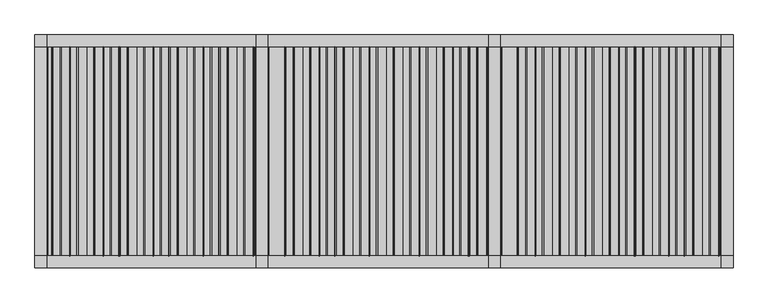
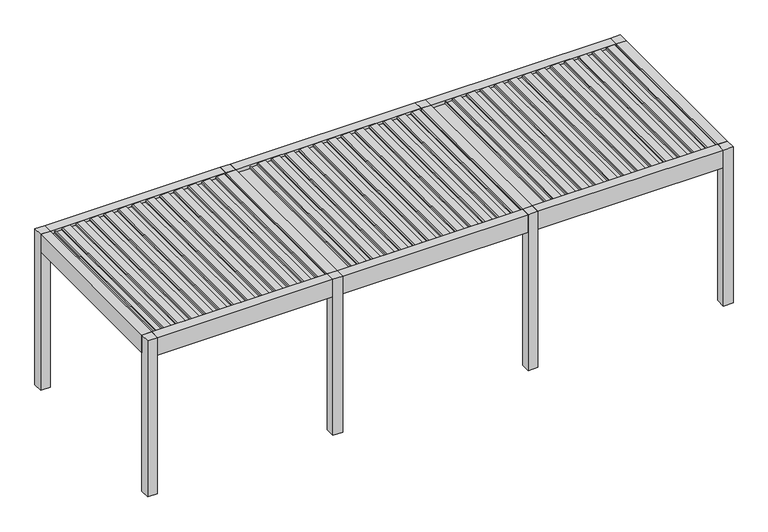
"""IFC4 building model written with IfcOpenShell, lengths in millimetres: proxy geometry, Renson_Amani_Patio_Cover : Renson_Amani_Patio_Cover."""

from ifc_helpers import new_model, si_unit, point, frame, frame_2d, origin, origin_with_axes, place, context, project, spatial, polyline, circle_curve, trimmed, segment, composite_curve, outline, extrude, source, transform, mapped, element, save


def generic_models_78fd4a68(model_context):
    return source(origin(), model_context, "Body", "SweptSolid", [
        extrude(outline(composite_curve([segment(polyline([(2483.35, 7073.7289238), (2511.01198, 7076.1490335), (2512.3970364, 7104.984284), (2531.8911096, 7101.5469529), (2526.6075693, 6991.549838)]), True, "CONTINUOUS"), segment(trimmed(circle_curve(frame_2d((2511.6248435, 6992.26951)), 15.0), [point((2526.6075693, 6991.549838))], [point((2514.2295662, 6977.4973937))], False, "CARTESIAN"), True, "CONTINUOUS"), segment(polyline([(2514.2295662, 6977.4973937), (2495.0, 6974.1067023), (2495.0, 6886.3709263), (2512.0788237, 6883.3594689), (2511.3450182, 6868.0824984), (2483.35, 6865.6332517), (2483.35, 7073.7289238)]), True, "CONTINUOUS")], self_intersect=False)), frame((0.0, -1350.0, 0.0), z_axis=(0.0, 1.0, 0.0), x_axis=(0.0, 0.0, 1.0)), (0.0, 0.0, 1.0), 2700.0),
        extrude(outline(composite_curve([segment(polyline([(2483.35, 6858.7132078), (2511.01198, 6861.1333174), (2512.3970364, 6889.9685679), (2531.8911096, 6886.5312368), (2526.6075693, 6776.534122)]), True, "CONTINUOUS"), segment(trimmed(circle_curve(frame_2d((2511.6248435, 6777.2537939)), 15.0), [point((2526.6075693, 6776.534122))], [point((2514.2295662, 6762.4816776))], False, "CARTESIAN"), True, "CONTINUOUS"), segment(polyline([(2514.2295662, 6762.4816776), (2495.0, 6759.0909863), (2495.0, 6671.3552102), (2512.0788237, 6668.3437528), (2511.3450182, 6653.0667824), (2483.35, 6650.6175356), (2483.35, 6858.7132078)]), True, "CONTINUOUS")], self_intersect=False)), frame((0.0, -1350.0, 0.0), z_axis=(0.0, 1.0, 0.0), x_axis=(0.0, 0.0, 1.0)), (0.0, 0.0, 1.0), 2700.0),
        extrude(outline(composite_curve([segment(polyline([(2483.35, 6643.6974917), (2511.01198, 6646.1176014), (2512.3970364, 6674.9528519), (2531.8911096, 6671.5155208), (2526.6075693, 6561.5184059)]), True, "CONTINUOUS"), segment(trimmed(circle_curve(frame_2d((2511.6248435, 6562.2380779)), 15.0), [point((2526.6075693, 6561.5184059))], [point((2514.2295662, 6547.4659616))], False, "CARTESIAN"), True, "CONTINUOUS"), segment(polyline([(2514.2295662, 6547.4659616), (2495.0, 6544.0752702), (2495.0, 6456.3394942), (2512.0788237, 6453.3280368), (2511.3450182, 6438.0510663), (2483.35, 6435.6018196), (2483.35, 6643.6974917)]), True, "CONTINUOUS")], self_intersect=False)), frame((0.0, -1350.0, 0.0), z_axis=(0.0, 1.0, 0.0), x_axis=(0.0, 0.0, 1.0)), (0.0, 0.0, 1.0), 2700.0),
        extrude(outline(composite_curve([segment(polyline([(2483.35, 6428.6817757), (2511.01198, 6431.1018854), (2512.3970364, 6459.9371358), (2531.8911096, 6456.4998047), (2526.6075693, 6346.5026899)]), True, "CONTINUOUS"), segment(trimmed(circle_curve(frame_2d((2511.6248435, 6347.2223618)), 15.0), [point((2526.6075693, 6346.5026899))], [point((2514.2295662, 6332.4502455))], False, "CARTESIAN"), True, "CONTINUOUS"), segment(polyline([(2514.2295662, 6332.4502455), (2495.0, 6329.0595542), (2495.0, 6241.3237782), (2512.0788237, 6238.3123207), (2511.3450182, 6223.0353503), (2483.35, 6220.5861035), (2483.35, 6428.6817757)]), True, "CONTINUOUS")], self_intersect=False)), frame((0.0, -1350.0, 0.0), z_axis=(0.0, 1.0, 0.0), x_axis=(0.0, 0.0, 1.0)), (0.0, 0.0, 1.0), 2700.0),
        extrude(outline(composite_curve([segment(polyline([(2483.35, 6213.6660597), (2511.01198, 6216.0861693), (2512.3970364, 6244.9214198), (2531.8911096, 6241.4840887), (2526.6075693, 6131.4869738)]), True, "CONTINUOUS"), segment(trimmed(circle_curve(frame_2d((2511.6248435, 6132.2066458)), 15.0), [point((2526.6075693, 6131.4869738))], [point((2514.2295662, 6117.4345295))], False, "CARTESIAN"), True, "CONTINUOUS"), segment(polyline([(2514.2295662, 6117.4345295), (2495.0, 6114.0438381), (2495.0, 6026.3080621), (2512.0788237, 6023.2966047), (2511.3450182, 6008.0196342), (2483.35, 6005.5703875), (2483.35, 6213.6660597)]), True, "CONTINUOUS")], self_intersect=False)), frame((0.0, -1350.0, 0.0), z_axis=(0.0, 1.0, 0.0), x_axis=(0.0, 0.0, 1.0)), (0.0, 0.0, 1.0), 2700.0),
        extrude(outline(composite_curve([segment(polyline([(2483.35, 5998.6503436), (2511.01198, 6001.0704533), (2512.3970364, 6029.9057037), (2531.8911096, 6026.4683726), (2526.6075693, 5916.4712578)]), True, "CONTINUOUS"), segment(trimmed(circle_curve(frame_2d((2511.6248435, 5917.1909297)), 15.0), [point((2526.6075693, 5916.4712578))], [point((2514.2295662, 5902.4188134))], False, "CARTESIAN"), True, "CONTINUOUS"), segment(polyline([(2514.2295662, 5902.4188134), (2495.0, 5899.0281221), (2495.0, 5811.2923461), (2512.0788237, 5808.2808886), (2511.3450182, 5793.0039182), (2483.35, 5790.5546714), (2483.35, 5998.6503436)]), True, "CONTINUOUS")], self_intersect=False)), frame((0.0, -1350.0, 0.0), z_axis=(0.0, 1.0, 0.0), x_axis=(0.0, 0.0, 1.0)), (0.0, 0.0, 1.0), 2700.0),
        extrude(outline(composite_curve([segment(polyline([(2483.35, 5783.6346276), (2511.01198, 5786.0547372), (2512.3970364, 5814.8899877), (2531.8911096, 5811.4526566), (2526.6075693, 5701.4555418)]), True, "CONTINUOUS"), segment(trimmed(circle_curve(frame_2d((2511.6248435, 5702.1752137)), 15.0), [point((2526.6075693, 5701.4555418))], [point((2514.2295662, 5687.4030974))], False, "CARTESIAN"), True, "CONTINUOUS"), segment(polyline([(2514.2295662, 5687.4030974), (2495.0, 5684.012406), (2495.0, 5596.27663), (2512.0788237, 5593.2651726), (2511.3450182, 5577.9882021), (2483.35, 5575.5389554), (2483.35, 5783.6346276)]), True, "CONTINUOUS")], self_intersect=False)), frame((0.0, -1350.0, 0.0), z_axis=(0.0, 1.0, 0.0), x_axis=(0.0, 0.0, 1.0)), (0.0, 0.0, 1.0), 2700.0),
        extrude(outline(composite_curve([segment(polyline([(2483.35, 5568.6189115), (2511.01198, 5571.0390212), (2512.3970364, 5599.8742716), (2531.8911096, 5596.4369406), (2526.6075693, 5486.4398257)]), True, "CONTINUOUS"), segment(trimmed(circle_curve(frame_2d((2511.6248435, 5487.1594976)), 15.0), [point((2526.6075693, 5486.4398257))], [point((2514.2295662, 5472.3873813))], False, "CARTESIAN"), True, "CONTINUOUS"), segment(polyline([(2514.2295662, 5472.3873813), (2495.0, 5468.99669), (2495.0, 5381.260914), (2512.0788237, 5378.2494566), (2511.3450182, 5362.9724861), (2483.35, 5360.5232394), (2483.35, 5568.6189115)]), True, "CONTINUOUS")], self_intersect=False)), frame((0.0, -1350.0, 0.0), z_axis=(0.0, 1.0, 0.0), x_axis=(0.0, 0.0, 1.0)), (0.0, 0.0, 1.0), 2700.0),
        extrude(outline(composite_curve([segment(polyline([(2483.35, 5353.6031955), (2511.01198, 5356.0233051), (2512.3970364, 5384.8585556), (2531.8911096, 5381.4212245), (2526.6075693, 5271.4241097)]), True, "CONTINUOUS"), segment(trimmed(circle_curve(frame_2d((2511.6248435, 5272.1437816)), 15.0), [point((2526.6075693, 5271.4241097))], [point((2514.2295662, 5257.3716653))], False, "CARTESIAN"), True, "CONTINUOUS"), segment(polyline([(2514.2295662, 5257.3716653), (2495.0, 5253.980974), (2495.0, 5166.2451979), (2512.0788237, 5163.2337405), (2511.3450182, 5147.95677), (2483.35, 5145.5075233), (2483.35, 5353.6031955)]), True, "CONTINUOUS")], self_intersect=False)), frame((0.0, -1350.0, 0.0), z_axis=(0.0, 1.0, 0.0), x_axis=(0.0, 0.0, 1.0)), (0.0, 0.0, 1.0), 2700.0),
        extrude(outline(composite_curve([segment(polyline([(2483.35, 5138.5874794), (2511.01198, 5141.0075891), (2512.3970364, 5169.8428395), (2531.8911096, 5166.4055085), (2526.6075693, 5056.4083936)]), True, "CONTINUOUS"), segment(trimmed(circle_curve(frame_2d((2511.6248435, 5057.1280655)), 15.0), [point((2526.6075693, 5056.4083936))], [point((2514.2295662, 5042.3559492))], False, "CARTESIAN"), True, "CONTINUOUS"), segment(polyline([(2514.2295662, 5042.3559492), (2495.0, 5038.9652579), (2495.0, 4951.2294819), (2512.0788237, 4948.2180245), (2511.3450182, 4932.941054), (2483.35, 4930.4918073), (2483.35, 5138.5874794)]), True, "CONTINUOUS")], self_intersect=False)), frame((0.0, -1350.0, 0.0), z_axis=(0.0, 1.0, 0.0), x_axis=(0.0, 0.0, 1.0)), (0.0, 0.0, 1.0), 2700.0),
        extrude(outline(composite_curve([segment(polyline([(2483.35, 7288.7446399), (2511.01198, 7291.1647495), (2512.3970364, 7320.0), (2531.8911096, 7316.5626689), (2526.6075693, 7206.5655541)]), True, "CONTINUOUS"), segment(trimmed(circle_curve(frame_2d((2511.6248435, 7207.285226)), 15.0), [point((2526.6075693, 7206.5655541))], [point((2514.2295662, 7192.5131097))], False, "CARTESIAN"), True, "CONTINUOUS"), segment(polyline([(2514.2295662, 7192.5131097), (2495.0, 7189.1224184), (2495.0, 7101.3866423), (2512.0788237, 7098.3751849), (2511.3450182, 7083.0982144), (2483.35, 7080.6489677), (2483.35, 7288.7446399)]), True, "CONTINUOUS")], self_intersect=False)), frame((0.0, -1350.0, 0.0), z_axis=(0.0, 1.0, 0.0), x_axis=(0.0, 0.0, 1.0)), (0.0, 0.0, 1.0), 2700.0),
        extrude(outline(composite_curve([segment(polyline([(2483.35, 4923.5717634), (2511.01198, 4925.991873), (2512.3970364, 4954.8271235), (2531.8911096, 4951.3897924), (2526.6075693, 4841.3926776)]), True, "CONTINUOUS"), segment(trimmed(circle_curve(frame_2d((2511.6248435, 4842.1123495)), 15.0), [point((2526.6075693, 4841.3926776))], [point((2514.2295662, 4827.3402332))], False, "CARTESIAN"), True, "CONTINUOUS"), segment(polyline([(2514.2295662, 4827.3402332), (2495.0, 4823.9495419), (2495.0, 4736.2137658), (2512.0788237, 4733.2023084), (2511.3450182, 4717.9253379), (2483.35, 4715.4760912), (2483.35, 4923.5717634)]), True, "CONTINUOUS")], self_intersect=False)), frame((0.0, -1350.0, 0.0), z_axis=(0.0, 1.0, 0.0), x_axis=(0.0, 0.0, 1.0)), (0.0, 0.0, 1.0), 2700.0),
        extrude(outline(composite_curve([segment(polyline([(2483.35, 4073.7289238), (2511.01198, 4076.1490335), (2512.3970364, 4104.984284), (2531.8911096, 4101.5469529), (2526.6075693, 3991.549838)]), True, "CONTINUOUS"), segment(trimmed(circle_curve(frame_2d((2511.6248435, 3992.26951)), 15.0), [point((2526.6075693, 3991.549838))], [point((2514.2295662, 3977.4973937))], False, "CARTESIAN"), True, "CONTINUOUS"), segment(polyline([(2514.2295662, 3977.4973937), (2495.0, 3974.1067023), (2495.0, 3886.3709263), (2512.0788237, 3883.3594689), (2511.3450182, 3868.0824984), (2483.35, 3865.6332517), (2483.35, 4073.7289238)]), True, "CONTINUOUS")], self_intersect=False)), frame((0.0, -1350.0, 0.0), z_axis=(0.0, 1.0, 0.0), x_axis=(0.0, 0.0, 1.0)), (0.0, 0.0, 1.0), 2700.0),
        extrude(outline(composite_curve([segment(polyline([(2483.35, 3858.7132078), (2511.01198, 3861.1333174), (2512.3970364, 3889.9685679), (2531.8911096, 3886.5312368), (2526.6075693, 3776.534122)]), True, "CONTINUOUS"), segment(trimmed(circle_curve(frame_2d((2511.6248435, 3777.2537939)), 15.0), [point((2526.6075693, 3776.534122))], [point((2514.2295662, 3762.4816776))], False, "CARTESIAN"), True, "CONTINUOUS"), segment(polyline([(2514.2295662, 3762.4816776), (2495.0, 3759.0909863), (2495.0, 3671.3552102), (2512.0788237, 3668.3437528), (2511.3450182, 3653.0667824), (2483.35, 3650.6175356), (2483.35, 3858.7132078)]), True, "CONTINUOUS")], self_intersect=False)), frame((0.0, -1350.0, 0.0), z_axis=(0.0, 1.0, 0.0), x_axis=(0.0, 0.0, 1.0)), (0.0, 0.0, 1.0), 2700.0),
        extrude(outline(composite_curve([segment(polyline([(2483.35, 3643.6974917), (2511.01198, 3646.1176014), (2512.3970364, 3674.9528519), (2531.8911096, 3671.5155208), (2526.6075693, 3561.5184059)]), True, "CONTINUOUS"), segment(trimmed(circle_curve(frame_2d((2511.6248435, 3562.2380779)), 15.0), [point((2526.6075693, 3561.5184059))], [point((2514.2295662, 3547.4659616))], False, "CARTESIAN"), True, "CONTINUOUS"), segment(polyline([(2514.2295662, 3547.4659616), (2495.0, 3544.0752702), (2495.0, 3456.3394942), (2512.0788237, 3453.3280368), (2511.3450182, 3438.0510663), (2483.35, 3435.6018196), (2483.35, 3643.6974917)]), True, "CONTINUOUS")], self_intersect=False)), frame((0.0, -1350.0, 0.0), z_axis=(0.0, 1.0, 0.0), x_axis=(0.0, 0.0, 1.0)), (0.0, 0.0, 1.0), 2700.0),
        extrude(outline(composite_curve([segment(polyline([(2483.35, 3428.6817757), (2511.01198, 3431.1018854), (2512.3970364, 3459.9371358), (2531.8911096, 3456.4998047), (2526.6075693, 3346.5026899)]), True, "CONTINUOUS"), segment(trimmed(circle_curve(frame_2d((2511.6248435, 3347.2223618)), 15.0), [point((2526.6075693, 3346.5026899))], [point((2514.2295662, 3332.4502455))], False, "CARTESIAN"), True, "CONTINUOUS"), segment(polyline([(2514.2295662, 3332.4502455), (2495.0, 3329.0595542), (2495.0, 3241.3237782), (2512.0788237, 3238.3123207), (2511.3450182, 3223.0353503), (2483.35, 3220.5861035), (2483.35, 3428.6817757)]), True, "CONTINUOUS")], self_intersect=False)), frame((0.0, -1350.0, 0.0), z_axis=(0.0, 1.0, 0.0), x_axis=(0.0, 0.0, 1.0)), (0.0, 0.0, 1.0), 2700.0),
        extrude(outline(composite_curve([segment(polyline([(2483.35, 3213.6660597), (2511.01198, 3216.0861693), (2512.3970364, 3244.9214198), (2531.8911096, 3241.4840887), (2526.6075693, 3131.4869738)]), True, "CONTINUOUS"), segment(trimmed(circle_curve(frame_2d((2511.6248435, 3132.2066458)), 15.0), [point((2526.6075693, 3131.4869738))], [point((2514.2295662, 3117.4345295))], False, "CARTESIAN"), True, "CONTINUOUS"), segment(polyline([(2514.2295662, 3117.4345295), (2495.0, 3114.0438381), (2495.0, 3026.3080621), (2512.0788237, 3023.2966047), (2511.3450182, 3008.0196342), (2483.35, 3005.5703875), (2483.35, 3213.6660597)]), True, "CONTINUOUS")], self_intersect=False)), frame((0.0, -1350.0, 0.0), z_axis=(0.0, 1.0, 0.0), x_axis=(0.0, 0.0, 1.0)), (0.0, 0.0, 1.0), 2700.0),
        extrude(outline(composite_curve([segment(polyline([(2483.35, 2998.6503436), (2511.01198, 3001.0704533), (2512.3970364, 3029.9057037), (2531.8911096, 3026.4683726), (2526.6075693, 2916.4712578)]), True, "CONTINUOUS"), segment(trimmed(circle_curve(frame_2d((2511.6248435, 2917.1909297)), 15.0), [point((2526.6075693, 2916.4712578))], [point((2514.2295662, 2902.4188134))], False, "CARTESIAN"), True, "CONTINUOUS"), segment(polyline([(2514.2295662, 2902.4188134), (2495.0, 2899.0281221), (2495.0, 2811.2923461), (2512.0788237, 2808.2808886), (2511.3450182, 2793.0039182), (2483.35, 2790.5546714), (2483.35, 2998.6503436)]), True, "CONTINUOUS")], self_intersect=False)), frame((0.0, -1350.0, 0.0), z_axis=(0.0, 1.0, 0.0), x_axis=(0.0, 0.0, 1.0)), (0.0, 0.0, 1.0), 2700.0),
        extrude(outline(composite_curve([segment(polyline([(2483.35, 2783.6346276), (2511.01198, 2786.0547372), (2512.3970364, 2814.8899877), (2531.8911096, 2811.4526566), (2526.6075693, 2701.4555418)]), True, "CONTINUOUS"), segment(trimmed(circle_curve(frame_2d((2511.6248435, 2702.1752137)), 15.0), [point((2526.6075693, 2701.4555418))], [point((2514.2295662, 2687.4030974))], False, "CARTESIAN"), True, "CONTINUOUS"), segment(polyline([(2514.2295662, 2687.4030974), (2495.0, 2684.012406), (2495.0, 2596.27663), (2512.0788237, 2593.2651726), (2511.3450182, 2577.9882021), (2483.35, 2575.5389554), (2483.35, 2783.6346276)]), True, "CONTINUOUS")], self_intersect=False)), frame((0.0, -1350.0, 0.0), z_axis=(0.0, 1.0, 0.0), x_axis=(0.0, 0.0, 1.0)), (0.0, 0.0, 1.0), 2700.0),
        extrude(outline(composite_curve([segment(polyline([(2483.35, 2568.6189115), (2511.01198, 2571.0390212), (2512.3970364, 2599.8742716), (2531.8911096, 2596.4369406), (2526.6075693, 2486.4398257)]), True, "CONTINUOUS"), segment(trimmed(circle_curve(frame_2d((2511.6248435, 2487.1594976)), 15.0), [point((2526.6075693, 2486.4398257))], [point((2514.2295662, 2472.3873813))], False, "CARTESIAN"), True, "CONTINUOUS"), segment(polyline([(2514.2295662, 2472.3873813), (2495.0, 2468.99669), (2495.0, 2381.260914), (2512.0788237, 2378.2494566), (2511.3450182, 2362.9724861), (2483.35, 2360.5232394), (2483.35, 2568.6189115)]), True, "CONTINUOUS")], self_intersect=False)), frame((0.0, -1350.0, 0.0), z_axis=(0.0, 1.0, 0.0), x_axis=(0.0, 0.0, 1.0)), (0.0, 0.0, 1.0), 2700.0),
        extrude(outline(composite_curve([segment(polyline([(2483.35, 2353.6031955), (2511.01198, 2356.0233051), (2512.3970364, 2384.8585556), (2531.8911096, 2381.4212245), (2526.6075693, 2271.4241097)]), True, "CONTINUOUS"), segment(trimmed(circle_curve(frame_2d((2511.6248435, 2272.1437816)), 15.0), [point((2526.6075693, 2271.4241097))], [point((2514.2295662, 2257.3716653))], False, "CARTESIAN"), True, "CONTINUOUS"), segment(polyline([(2514.2295662, 2257.3716653), (2495.0, 2253.980974), (2495.0, 2166.2451979), (2512.0788237, 2163.2337405), (2511.3450182, 2147.95677), (2483.35, 2145.5075233), (2483.35, 2353.6031955)]), True, "CONTINUOUS")], self_intersect=False)), frame((0.0, -1350.0, 0.0), z_axis=(0.0, 1.0, 0.0), x_axis=(0.0, 0.0, 1.0)), (0.0, 0.0, 1.0), 2700.0),
        extrude(outline(composite_curve([segment(polyline([(2483.35, 2138.5874794), (2511.01198, 2141.0075891), (2512.3970364, 2169.8428395), (2531.8911096, 2166.4055085), (2526.6075693, 2056.4083936)]), True, "CONTINUOUS"), segment(trimmed(circle_curve(frame_2d((2511.6248435, 2057.1280655)), 15.0), [point((2526.6075693, 2056.4083936))], [point((2514.2295662, 2042.3559492))], False, "CARTESIAN"), True, "CONTINUOUS"), segment(polyline([(2514.2295662, 2042.3559492), (2495.0, 2038.9652579), (2495.0, 1951.2294819), (2512.0788237, 1948.2180245), (2511.3450182, 1932.941054), (2483.35, 1930.4918073), (2483.35, 2138.5874794)]), True, "CONTINUOUS")], self_intersect=False)), frame((0.0, -1350.0, 0.0), z_axis=(0.0, 1.0, 0.0), x_axis=(0.0, 0.0, 1.0)), (0.0, 0.0, 1.0), 2700.0),
        extrude(outline(composite_curve([segment(polyline([(2483.35, 4288.7446399), (2511.01198, 4291.1647495), (2512.3970364, 4320.0), (2531.8911096, 4316.5626689), (2526.6075693, 4206.5655541)]), True, "CONTINUOUS"), segment(trimmed(circle_curve(frame_2d((2511.6248435, 4207.285226)), 15.0), [point((2526.6075693, 4206.5655541))], [point((2514.2295662, 4192.5131097))], False, "CARTESIAN"), True, "CONTINUOUS"), segment(polyline([(2514.2295662, 4192.5131097), (2495.0, 4189.1224184), (2495.0, 4101.3866423), (2512.0788237, 4098.3751849), (2511.3450182, 4083.0982144), (2483.35, 4080.6489677), (2483.35, 4288.7446399)]), True, "CONTINUOUS")], self_intersect=False)), frame((0.0, -1350.0, 0.0), z_axis=(0.0, 1.0, 0.0), x_axis=(0.0, 0.0, 1.0)), (0.0, 0.0, 1.0), 2700.0),
        extrude(outline(composite_curve([segment(polyline([(2483.35, 1923.5717634), (2511.01198, 1925.991873), (2512.3970364, 1954.8271235), (2531.8911096, 1951.3897924), (2526.6075693, 1841.3926776)]), True, "CONTINUOUS"), segment(trimmed(circle_curve(frame_2d((2511.6248435, 1842.1123495)), 15.0), [point((2526.6075693, 1841.3926776))], [point((2514.2295662, 1827.3402332))], False, "CARTESIAN"), True, "CONTINUOUS"), segment(polyline([(2514.2295662, 1827.3402332), (2495.0, 1823.9495419), (2495.0, 1736.2137658), (2512.0788237, 1733.2023084), (2511.3450182, 1717.9253379), (2483.35, 1715.4760912), (2483.35, 1923.5717634)]), True, "CONTINUOUS")], self_intersect=False)), frame((0.0, -1350.0, 0.0), z_axis=(0.0, 1.0, 0.0), x_axis=(0.0, 0.0, 1.0)), (0.0, 0.0, 1.0), 2700.0),
        extrude(outline(composite_curve([segment(polyline([(2483.35, 1073.7289238), (2511.01198, 1076.1490335), (2512.3970364, 1104.984284), (2531.8911096, 1101.5469529), (2526.6075693, 991.549838)]), True, "CONTINUOUS"), segment(trimmed(circle_curve(frame_2d((2511.6248435, 992.26951)), 15.0), [point((2526.6075693, 991.549838))], [point((2514.2295662, 977.4973937))], False, "CARTESIAN"), True, "CONTINUOUS"), segment(polyline([(2514.2295662, 977.4973937), (2495.0, 974.1067023), (2495.0, 886.3709263), (2512.0788237, 883.3594689), (2511.3450182, 868.0824984), (2483.35, 865.6332517), (2483.35, 1073.7289238)]), True, "CONTINUOUS")], self_intersect=False)), frame((0.0, -1350.0, 0.0), z_axis=(0.0, 1.0, 0.0), x_axis=(0.0, 0.0, 1.0)), (0.0, 0.0, 1.0), 2700.0),
        extrude(outline(composite_curve([segment(polyline([(2483.35, 858.7132078), (2511.01198, 861.1333174), (2512.3970364, 889.9685679), (2531.8911096, 886.5312368), (2526.6075693, 776.534122)]), True, "CONTINUOUS"), segment(trimmed(circle_curve(frame_2d((2511.6248435, 777.2537939)), 15.0), [point((2526.6075693, 776.534122))], [point((2514.2295662, 762.4816776))], False, "CARTESIAN"), True, "CONTINUOUS"), segment(polyline([(2514.2295662, 762.4816776), (2495.0, 759.0909863), (2495.0, 671.3552102), (2512.0788237, 668.3437528), (2511.3450182, 653.0667824), (2483.35, 650.6175356), (2483.35, 858.7132078)]), True, "CONTINUOUS")], self_intersect=False)), frame((0.0, -1350.0, 0.0), z_axis=(0.0, 1.0, 0.0), x_axis=(0.0, 0.0, 1.0)), (0.0, 0.0, 1.0), 2700.0),
        extrude(outline(composite_curve([segment(polyline([(2483.35, 643.6974917), (2511.01198, 646.1176014), (2512.3970364, 674.9528519), (2531.8911096, 671.5155208), (2526.6075693, 561.5184059)]), True, "CONTINUOUS"), segment(trimmed(circle_curve(frame_2d((2511.6248435, 562.2380779)), 15.0), [point((2526.6075693, 561.5184059))], [point((2514.2295662, 547.4659616))], False, "CARTESIAN"), True, "CONTINUOUS"), segment(polyline([(2514.2295662, 547.4659616), (2495.0, 544.0752702), (2495.0, 456.3394942), (2512.0788237, 453.3280368), (2511.3450182, 438.0510663), (2483.35, 435.6018196), (2483.35, 643.6974917)]), True, "CONTINUOUS")], self_intersect=False)), frame((0.0, -1350.0, 0.0), z_axis=(0.0, 1.0, 0.0), x_axis=(0.0, 0.0, 1.0)), (0.0, 0.0, 1.0), 2700.0),
        extrude(outline(composite_curve([segment(polyline([(2483.35, 428.6817757), (2511.01198, 431.1018854), (2512.3970364, 459.9371358), (2531.8911096, 456.4998047), (2526.6075693, 346.5026899)]), True, "CONTINUOUS"), segment(trimmed(circle_curve(frame_2d((2511.6248435, 347.2223618)), 15.0), [point((2526.6075693, 346.5026899))], [point((2514.2295662, 332.4502455))], False, "CARTESIAN"), True, "CONTINUOUS"), segment(polyline([(2514.2295662, 332.4502455), (2495.0, 329.0595542), (2495.0, 241.3237782), (2512.0788237, 238.3123207), (2511.3450182, 223.0353503), (2483.35, 220.5861035), (2483.35, 428.6817757)]), True, "CONTINUOUS")], self_intersect=False)), frame((0.0, -1350.0, 0.0), z_axis=(0.0, 1.0, 0.0), x_axis=(0.0, 0.0, 1.0)), (0.0, 0.0, 1.0), 2700.0),
        extrude(outline(composite_curve([segment(polyline([(2483.35, 213.6660597), (2511.01198, 216.0861693), (2512.3970364, 244.9214198), (2531.8911096, 241.4840887), (2526.6075693, 131.4869738)]), True, "CONTINUOUS"), segment(trimmed(circle_curve(frame_2d((2511.6248435, 132.2066458)), 15.0), [point((2526.6075693, 131.4869738))], [point((2514.2295662, 117.4345295))], False, "CARTESIAN"), True, "CONTINUOUS"), segment(polyline([(2514.2295662, 117.4345295), (2495.0, 114.0438381), (2495.0, 26.3080621), (2512.0788237, 23.2966047), (2511.3450182, 8.0196342), (2483.35, 5.5703875), (2483.35, 213.6660597)]), True, "CONTINUOUS")], self_intersect=False)), frame((0.0, -1350.0, 0.0), z_axis=(0.0, 1.0, 0.0), x_axis=(0.0, 0.0, 1.0)), (0.0, 0.0, 1.0), 2700.0),
        extrude(outline(composite_curve([segment(polyline([(2483.35, -1.3496564), (2511.01198, 1.0704533), (2512.3970364, 29.9057037), (2531.8911096, 26.4683726), (2526.6075693, -83.5287422)]), True, "CONTINUOUS"), segment(trimmed(circle_curve(frame_2d((2511.6248435, -82.8090703)), 15.0), [point((2526.6075693, -83.5287422))], [point((2514.2295662, -97.5811866))], False, "CARTESIAN"), True, "CONTINUOUS"), segment(polyline([(2514.2295662, -97.5811866), (2495.0, -100.9718779), (2495.0, -188.7076539), (2512.0788237, -191.7191114), (2511.3450182, -206.9960818), (2483.35, -209.4453286), (2483.35, -1.3496564)]), True, "CONTINUOUS")], self_intersect=False)), frame((0.0, -1350.0, 0.0), z_axis=(0.0, 1.0, 0.0), x_axis=(0.0, 0.0, 1.0)), (0.0, 0.0, 1.0), 2700.0),
        extrude(outline(composite_curve([segment(polyline([(2483.35, -216.3653724), (2511.01198, -213.9452628), (2512.3970364, -185.1100123), (2531.8911096, -188.5473434), (2526.6075693, -298.5444582)]), True, "CONTINUOUS"), segment(trimmed(circle_curve(frame_2d((2511.6248435, -297.8247863)), 15.0), [point((2526.6075693, -298.5444582))], [point((2514.2295662, -312.5969026))], False, "CARTESIAN"), True, "CONTINUOUS"), segment(polyline([(2514.2295662, -312.5969026), (2495.0, -315.987594), (2495.0, -403.72337), (2512.0788237, -406.7348274), (2511.3450182, -422.0117979), (2483.35, -424.4610446), (2483.35, -216.3653724)]), True, "CONTINUOUS")], self_intersect=False)), frame((0.0, -1350.0, 0.0), z_axis=(0.0, 1.0, 0.0), x_axis=(0.0, 0.0, 1.0)), (0.0, 0.0, 1.0), 2700.0),
        extrude(outline(composite_curve([segment(polyline([(2483.35, -431.3810885), (2511.01198, -428.9609788), (2512.3970364, -400.1257284), (2531.8911096, -403.5630594), (2526.6075693, -513.5601743)]), True, "CONTINUOUS"), segment(trimmed(circle_curve(frame_2d((2511.6248435, -512.8405024)), 15.0), [point((2526.6075693, -513.5601743))], [point((2514.2295662, -527.6126187))], False, "CARTESIAN"), True, "CONTINUOUS"), segment(polyline([(2514.2295662, -527.6126187), (2495.0, -531.00331), (2495.0, -618.739086), (2512.0788237, -621.7505434), (2511.3450182, -637.0275139), (2483.35, -639.4767606), (2483.35, -431.3810885)]), True, "CONTINUOUS")], self_intersect=False)), frame((0.0, -1350.0, 0.0), z_axis=(0.0, 1.0, 0.0), x_axis=(0.0, 0.0, 1.0)), (0.0, 0.0, 1.0), 2700.0),
        extrude(outline(composite_curve([segment(polyline([(2483.35, -646.3968045), (2511.01198, -643.9766949), (2512.3970364, -615.1414444), (2531.8911096, -618.5787755), (2526.6075693, -728.5758903)]), True, "CONTINUOUS"), segment(trimmed(circle_curve(frame_2d((2511.6248435, -727.8562184)), 15.0), [point((2526.6075693, -728.5758903))], [point((2514.2295662, -742.6283347))], False, "CARTESIAN"), True, "CONTINUOUS"), segment(polyline([(2514.2295662, -742.6283347), (2495.0, -746.019026), (2495.0, -833.7548021), (2512.0788237, -836.7662595), (2511.3450182, -852.04323), (2483.35, -854.4924767), (2483.35, -646.3968045)]), True, "CONTINUOUS")], self_intersect=False)), frame((0.0, -1350.0, 0.0), z_axis=(0.0, 1.0, 0.0), x_axis=(0.0, 0.0, 1.0)), (0.0, 0.0, 1.0), 2700.0),
        extrude(outline(composite_curve([segment(polyline([(2483.35, -861.4125206), (2511.01198, -858.9924109), (2512.3970364, -830.1571605), (2531.8911096, -833.5944915), (2526.6075693, -943.5916064)]), True, "CONTINUOUS"), segment(trimmed(circle_curve(frame_2d((2511.6248435, -942.8719345)), 15.0), [point((2526.6075693, -943.5916064))], [point((2514.2295662, -957.6440508))], False, "CARTESIAN"), True, "CONTINUOUS"), segment(polyline([(2514.2295662, -957.6440508), (2495.0, -961.0347421), (2495.0, -1048.7705181), (2512.0788237, -1051.7819755), (2511.3450182, -1067.058946), (2483.35, -1069.5081927), (2483.35, -861.4125206)]), True, "CONTINUOUS")], self_intersect=False)), frame((0.0, -1350.0, 0.0), z_axis=(0.0, 1.0, 0.0), x_axis=(0.0, 0.0, 1.0)), (0.0, 0.0, 1.0), 2700.0),
        extrude(outline(composite_curve([segment(polyline([(2483.35, 1288.7446399), (2511.01198, 1291.1647495), (2512.3970364, 1320.0), (2531.8911096, 1316.5626689), (2526.6075693, 1206.5655541)]), True, "CONTINUOUS"), segment(trimmed(circle_curve(frame_2d((2511.6248435, 1207.285226)), 15.0), [point((2526.6075693, 1206.5655541))], [point((2514.2295662, 1192.5131097))], False, "CARTESIAN"), True, "CONTINUOUS"), segment(polyline([(2514.2295662, 1192.5131097), (2495.0, 1189.1224184), (2495.0, 1101.3866423), (2512.0788237, 1098.3751849), (2511.3450182, 1083.0982144), (2483.35, 1080.6489677), (2483.35, 1288.7446399)]), True, "CONTINUOUS")], self_intersect=False)), frame((0.0, -1350.0, 0.0), z_axis=(0.0, 1.0, 0.0), x_axis=(0.0, 0.0, 1.0)), (0.0, 0.0, 1.0), 2700.0),
        extrude(outline(composite_curve([segment(polyline([(2483.35, -1076.4282366), (2511.01198, -1074.008127), (2512.3970364, -1045.1728765), (2531.8911096, -1048.6102076), (2526.6075693, -1158.6073224)]), True, "CONTINUOUS"), segment(trimmed(circle_curve(frame_2d((2511.6248435, -1157.8876505)), 15.0), [point((2526.6075693, -1158.6073224))], [point((2514.2295662, -1172.6597668))], False, "CARTESIAN"), True, "CONTINUOUS"), segment(polyline([(2514.2295662, -1172.6597668), (2495.0, -1176.0504581), (2495.0, -1263.7862342), (2512.0788237, -1266.7976916), (2511.3450182, -1282.0746621), (2483.35, -1284.5239088), (2483.35, -1076.4282366)]), True, "CONTINUOUS")], self_intersect=False)), frame((0.0, -1350.0, 0.0), z_axis=(0.0, 1.0, 0.0), x_axis=(0.0, 0.0, 1.0)), (0.0, 0.0, 1.0), 2700.0),
        extrude(outline(polyline([(7500.0, -1350.0), (7500.0, -1500.0), (7350.0, -1500.0), (7350.0, -1350.0), (7500.0, -1350.0)])), origin_with_axes(), (0.0, 0.0, 1.0), 2535.0),
        extrude(outline(polyline([(7500.0, 1500.0), (7500.0, 1350.0), (7350.0, 1350.0), (7350.0, 1500.0), (7500.0, 1500.0)])), origin_with_axes(), (0.0, 0.0, 1.0), 2535.0),
        extrude(outline(polyline([(4500.0, 1500.0), (4500.0, 1350.0), (4350.0, 1350.0), (4350.0, 1500.0), (4500.0, 1500.0)])), origin_with_axes(), (0.0, 0.0, 1.0), 2535.0),
        extrude(outline(polyline([(4500.0, -1350.0), (4500.0, -1500.0), (4350.0, -1500.0), (4350.0, -1350.0), (4500.0, -1350.0)])), origin_with_axes(), (0.0, 0.0, 1.0), 2535.0),
        extrude(outline(polyline([(1500.0, -1350.0), (1500.0, -1500.0), (1350.0, -1500.0), (1350.0, -1350.0), (1500.0, -1350.0)])), origin_with_axes(), (0.0, 0.0, 1.0), 2535.0),
        extrude(outline(polyline([(1500.0, 1500.0), (1500.0, 1350.0), (1350.0, 1350.0), (1350.0, 1500.0), (1500.0, 1500.0)])), origin_with_axes(), (0.0, 0.0, 1.0), 2535.0),
        extrude(outline(polyline([(-1350.0, 1350.0), (-1500.0, 1350.0), (-1500.0, 1500.0), (-1350.0, 1500.0), (-1350.0, 1350.0)])), origin_with_axes(), (0.0, 0.0, 1.0), 2535.0),
        extrude(outline(polyline([(-1350.0, -1350.0), (-1350.0, -1500.0), (-1500.0, -1500.0), (-1500.0, -1350.0), (-1350.0, -1350.0)])), origin_with_axes(), (0.0, 0.0, 1.0), 2535.0),
        extrude(outline(polyline([(2466.6559373, 4500.0), (2466.6559373, 4710.0), (2480.6555802, 4713.7512887), (2480.6555802, 4520.4059055), (2496.400763, 4505.0), (2504.2449277, 4505.0), (2504.6823598, 4500.0), (2466.6559373, 4500.0)])), frame((0.0, -1350.0, 0.0), z_axis=(0.0, 1.0, 0.0), x_axis=(0.0, 0.0, 1.0)), (0.0, 0.0, 1.0), 2700.0),
        extrude(outline(polyline([(-1350.0, 2535.0), (-1350.0, 2322.0), (-1280.0000001, 2322.0), (-1280.0000001, 2250.0), (-1500.0, 2250.0), (-1500.0, 2535.0), (-1350.0, 2535.0)])), frame((4500.0, 0.0, 0.0), z_axis=(1.0, 0.0, 0.0), x_axis=(0.0, 1.0, 0.0)), (0.0, 0.0, 1.0), 2850.0),
        extrude(outline(polyline([(1500.0, 2250.0), (1280.0000001, 2250.0), (1280.0000001, 2322.0), (1350.0, 2322.0), (1350.0, 2535.0), (1500.0, 2535.0), (1500.0, 2250.0)])), frame((4500.0, 0.0, 0.0), z_axis=(1.0, 0.0, 0.0), x_axis=(0.0, 1.0, 0.0)), (0.0, 0.0, 1.0), 2850.0),
        extrude(outline(polyline([(2535.0, 7500.0), (2535.0, 7350.0), (2504.6823598, 7350.0), (2504.2449277, 7345.0), (2496.400763, 7345.0), (2480.6555802, 7329.2544156), (2480.6555802, 7319.9090324), (2466.6559373, 7323.6603211), (2466.6559373, 7350.0), (2250.0, 7350.0), (2250.0, 7500.0), (2535.0, 7500.0)])), frame((0.0, -1350.0, 0.0), z_axis=(0.0, 1.0, 0.0), x_axis=(0.0, 0.0, 1.0)), (0.0, 0.0, 1.0), 2700.0),
        extrude(outline(polyline([(2466.6559373, 1500.0), (2466.6559373, 1710.0), (2480.6555802, 1713.7512887), (2480.6555802, 1520.4059055), (2496.400763, 1505.0), (2504.2449277, 1505.0), (2504.6823598, 1500.0), (2466.6559373, 1500.0)])), frame((0.0, -1350.0, 0.0), z_axis=(0.0, 1.0, 0.0), x_axis=(0.0, 0.0, 1.0)), (0.0, 0.0, 1.0), 2700.0),
        extrude(outline(polyline([(-1350.0, 2535.0), (-1350.0, 2322.0), (-1280.0000001, 2322.0), (-1280.0000001, 2250.0), (-1500.0, 2250.0), (-1500.0, 2535.0), (-1350.0, 2535.0)])), frame((1500.0, 0.0, 0.0), z_axis=(1.0, 0.0, 0.0), x_axis=(0.0, 1.0, 0.0)), (0.0, 0.0, 1.0), 2850.0),
        extrude(outline(polyline([(1500.0, 2250.0), (1280.0000001, 2250.0), (1280.0000001, 2322.0), (1350.0, 2322.0), (1350.0, 2535.0), (1500.0, 2535.0), (1500.0, 2250.0)])), frame((1500.0, 0.0, 0.0), z_axis=(1.0, 0.0, 0.0), x_axis=(0.0, 1.0, 0.0)), (0.0, 0.0, 1.0), 2850.0),
        extrude(outline(polyline([(2535.0, 4500.0), (2535.0, 4350.0), (2504.6823598, 4350.0), (2504.2449277, 4345.0), (2496.400763, 4345.0), (2480.6555802, 4329.2544156), (2480.6555802, 4319.9090324), (2466.6559373, 4323.6603211), (2466.6559373, 4350.0), (2250.0, 4350.0), (2250.0, 4500.0), (2535.0, 4500.0)])), frame((0.0, -1350.0, 0.0), z_axis=(0.0, 1.0, 0.0), x_axis=(0.0, 0.0, 1.0)), (0.0, 0.0, 1.0), 2700.0),
        extrude(outline(polyline([(2466.6559373, -1350.0), (2466.6559373, -1290.0), (2480.6555802, -1286.2487113), (2480.6555802, -1329.5940945), (2496.400763, -1345.0), (2504.2449277, -1345.0), (2504.6823598, -1350.0), (2466.6559373, -1350.0)])), frame((0.0, -1350.0, 0.0), z_axis=(0.0, 1.0, 0.0), x_axis=(0.0, 0.0, 1.0)), (0.0, 0.0, 1.0), 2700.0),
        extrude(outline(polyline([(-1350.0, -1350.0), (-1500.0, -1350.0), (-1500.0, 1350.0), (-1350.0, 1350.0), (-1350.0, -1350.0)])), frame((0.0, 0.0, 2250.0), z_axis=(0.0, 0.0, 1.0), x_axis=(1.0, 0.0, 0.0)), (0.0, 0.0, 1.0), 285.0),
        extrude(outline(polyline([(2535.0, 1500.0), (2535.0, 1350.0), (2504.6904658, 1350.0), (2504.2449277, 1345.0), (2496.400763, 1345.0), (2480.6555802, 1329.2544156), (2480.6555802, 1319.9090324), (2466.6559373, 1323.6603211), (2466.6559373, 1350.0), (2250.0, 1350.0), (2250.0, 1500.0), (2535.0, 1500.0)])), frame((0.0, -1350.0, 0.0), z_axis=(0.0, 1.0, 0.0), x_axis=(0.0, 0.0, 1.0)), (0.0, 0.0, 1.0), 2700.0),
        extrude(outline(polyline([(-1350.0, 2535.0), (-1350.0, 2322.0), (-1280.0000001, 2322.0), (-1280.0000001, 2250.0), (-1500.0, 2250.0), (-1500.0, 2535.0), (-1350.0, 2535.0)])), frame((-1350.0, 0.0, 0.0), z_axis=(1.0, 0.0, 0.0), x_axis=(0.0, 1.0, 0.0)), (0.0, 0.0, 1.0), 2700.0),
        extrude(outline(polyline([(1500.0, 2250.0), (1280.0000001, 2250.0), (1280.0000001, 2322.0), (1350.0, 2322.0), (1350.0, 2535.0), (1500.0, 2535.0), (1500.0, 2250.0)])), frame((-1350.0, 0.0, 0.0), z_axis=(1.0, 0.0, 0.0), x_axis=(0.0, 1.0, 0.0)), (0.0, 0.0, 1.0), 2700.0),
    ])


if __name__ == "__main__":
    model = new_model("IFC4")
    model_context = context("Model", 3, world=origin())
    ifc_project = project(units=[si_unit("LENGTHUNIT", "METRE", prefix="MILLI")], contexts=[model_context])
    site = spatial("IfcSite", under=ifc_project)
    building = spatial("IfcBuilding", under=site)
    placement = place(None, origin())
    generic_models_shape = generic_models_78fd4a68(model_context)
    element("IfcBuildingElementProxy", 1, Name="Renson_Amani_Patio_Cover : Renson_Amani_Patio_Cover", ObjectType="Renson_Amani_Patio_Cover : Renson_Amani_Patio_Cover", at=placement, inside=building, context=model_context, shape_type="MappedRepresentation", body=[
        mapped(generic_models_shape, transform((0.0, 0.0, 0.0), x_axis=(1.0, 0.0, 0.0), y_axis=(0.0, 1.0, 0.0), z_axis=(0.0, 0.0, 1.0))),
    ])
    save(model, "model.ifc")
